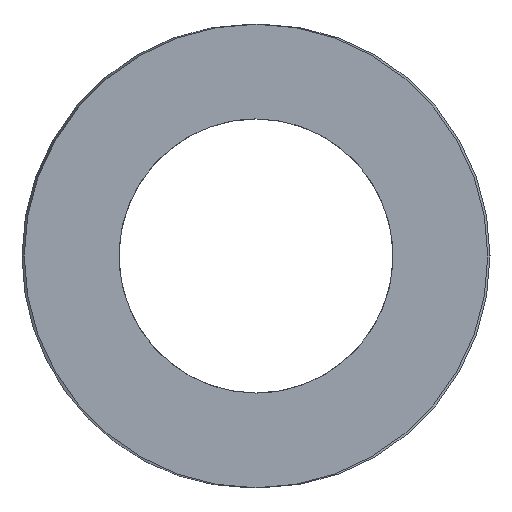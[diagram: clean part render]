
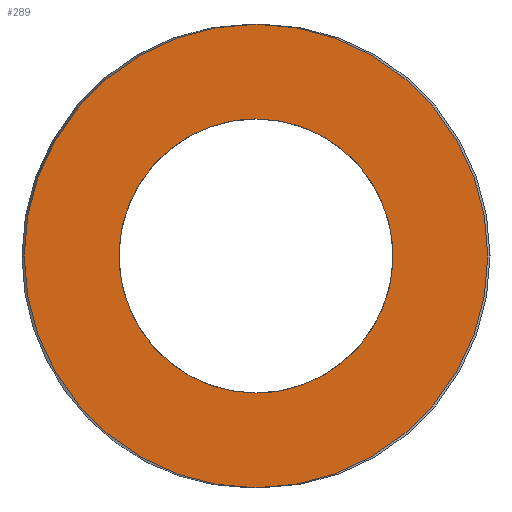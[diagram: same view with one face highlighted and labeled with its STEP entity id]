
A CAD part, left-side view. The second image highlights one B-rep face of the part: STEP entity #289.
In plain terms, the highlighted planar face has unit normal (-1, 0, 0).
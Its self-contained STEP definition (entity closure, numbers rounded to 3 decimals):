
#63=CARTESIAN_POINT('Vertex',(0.,4.65,0.)) ;
#77=CARTESIAN_POINT('Vertex',(0.,-4.65,0.)) ;
#80=CARTESIAN_POINT('Axis2P3D Location',(0.,0.,0.)) ;
#97=CARTESIAN_POINT('Axis2P3D Location',(0.,0.,0.)) ;
#226=CARTESIAN_POINT('Axis2P3D Location',(0.,2.325,0.)) ;
#236=CARTESIAN_POINT('Control Point',(0.,0.,-2.75)) ;
#237=CARTESIAN_POINT('Control Point',(0.,0.325,-2.75)) ;
#238=CARTESIAN_POINT('Control Point',(0.,0.65,-2.702)) ;
#239=CARTESIAN_POINT('Control Point',(0.,0.965,-2.606)) ;
#240=CARTESIAN_POINT('Control Point',(0.,1.559,-2.324)) ;
#241=CARTESIAN_POINT('Control Point',(0.,2.045,-1.882)) ;
#242=CARTESIAN_POINT('Control Point',(0.,2.253,-1.626)) ;
#243=CARTESIAN_POINT('Control Point',(0.,2.589,-1.061)) ;
#244=CARTESIAN_POINT('Control Point',(0.,2.747,-0.424)) ;
#245=CARTESIAN_POINT('Control Point',(0.,2.777,-0.095)) ;
#246=CARTESIAN_POINT('Control Point',(0.,2.741,0.561)) ;
#247=CARTESIAN_POINT('Control Point',(0.,2.517,1.178)) ;
#248=CARTESIAN_POINT('Control Point',(0.,2.36,1.468)) ;
#249=CARTESIAN_POINT('Control Point',(0.,1.964,1.993)) ;
#250=CARTESIAN_POINT('Control Point',(0.,1.434,2.38)) ;
#251=CARTESIAN_POINT('Control Point',(0.,1.142,2.534)) ;
#252=CARTESIAN_POINT('Control Point',(0.,0.733,2.675)) ;
#253=CARTESIAN_POINT('Control Point',(0.,0.309,2.735)) ;
#254=CARTESIAN_POINT('Control Point',(0.,0.206,2.745)) ;
#255=CARTESIAN_POINT('Control Point',(0.,0.103,2.75)) ;
#256=CARTESIAN_POINT('Control Point',(0.,0.,2.75)) ;
#257=CARTESIAN_POINT('Vertex',(0.,0.,-2.75)) ;
#259=CARTESIAN_POINT('Vertex',(0.,0.,2.75)) ;
#263=CARTESIAN_POINT('Control Point',(0.,0.,2.75)) ;
#264=CARTESIAN_POINT('Control Point',(0.,-0.325,2.75)) ;
#265=CARTESIAN_POINT('Control Point',(0.,-0.65,2.702)) ;
#266=CARTESIAN_POINT('Control Point',(0.,-0.965,2.606)) ;
#267=CARTESIAN_POINT('Control Point',(0.,-1.559,2.324)) ;
#268=CARTESIAN_POINT('Control Point',(0.,-2.045,1.882)) ;
#269=CARTESIAN_POINT('Control Point',(0.,-2.253,1.626)) ;
#270=CARTESIAN_POINT('Control Point',(0.,-2.589,1.061)) ;
#271=CARTESIAN_POINT('Control Point',(0.,-2.747,0.424)) ;
#272=CARTESIAN_POINT('Control Point',(0.,-2.777,0.095)) ;
#273=CARTESIAN_POINT('Control Point',(0.,-2.741,-0.561)) ;
#274=CARTESIAN_POINT('Control Point',(0.,-2.517,-1.178)) ;
#275=CARTESIAN_POINT('Control Point',(0.,-2.36,-1.468)) ;
#276=CARTESIAN_POINT('Control Point',(0.,-1.964,-1.993)) ;
#277=CARTESIAN_POINT('Control Point',(0.,-1.434,-2.38)) ;
#278=CARTESIAN_POINT('Control Point',(0.,-1.142,-2.534)) ;
#279=CARTESIAN_POINT('Control Point',(0.,-0.733,-2.675)) ;
#280=CARTESIAN_POINT('Control Point',(0.,-0.309,-2.735)) ;
#281=CARTESIAN_POINT('Control Point',(0.,-0.206,-2.745)) ;
#282=CARTESIAN_POINT('Control Point',(0.,-0.103,-2.75)) ;
#283=CARTESIAN_POINT('Control Point',(0.,0.,-2.75)) ;
#81=DIRECTION('Axis2P3D Direction',(1.,-0.,0.)) ;
#98=DIRECTION('Axis2P3D Direction',(1.,-0.,0.)) ;
#227=DIRECTION('Axis2P3D Direction',(-1.,0.,0.)) ;
#228=DIRECTION('Axis2P3D XDirection',(0.,1.,0.)) ;
#82=AXIS2_PLACEMENT_3D('Circle Axis2P3D',#80,#81,$) ;
#99=AXIS2_PLACEMENT_3D('Circle Axis2P3D',#97,#98,$) ;
#229=AXIS2_PLACEMENT_3D('Plane Axis2P3D',#226,#227,#228) ;
#232=ORIENTED_EDGE('',*,*,#84,.T.) ;
#233=ORIENTED_EDGE('',*,*,#101,.T.) ;
#286=ORIENTED_EDGE('',*,*,#261,.T.) ;
#287=ORIENTED_EDGE('',*,*,#284,.T.) ;
#288=FACE_BOUND('',#285,.T.) ;
#289=ADVANCED_FACE('392-B10-025',(#234,#288),#230,.T.) ;
#235=B_SPLINE_CURVE_WITH_KNOTS('',5,(#236,#237,#238,#239,#240,#241,#242,#243,#244,#245,#246,#247,#248,#249,#250,#251,#252,#253,#254,#255,#256),.UNSPECIFIED.,.F.,.U.,(6,3,3,3,3,3,6),(0.,2.298,4.596,6.893,9.191,11.489,12.217),.UNSPECIFIED.) ;
#262=B_SPLINE_CURVE_WITH_KNOTS('',5,(#263,#264,#265,#266,#267,#268,#269,#270,#271,#272,#273,#274,#275,#276,#277,#278,#279,#280,#281,#282,#283),.UNSPECIFIED.,.F.,.U.,(6,3,3,3,3,3,6),(0.,2.298,4.596,6.893,9.191,11.489,12.217),.UNSPECIFIED.) ;
#83=CIRCLE('generated circle',#82,4.65) ;
#100=CIRCLE('generated circle',#99,4.65) ;
#84=EDGE_CURVE('',#64,#78,#83,.F.) ;
#101=EDGE_CURVE('',#78,#64,#100,.F.) ;
#261=EDGE_CURVE('',#258,#260,#235,.T.) ;
#284=EDGE_CURVE('',#260,#258,#262,.T.) ;
#231=EDGE_LOOP('',(#232,#233)) ;
#285=EDGE_LOOP('',(#286,#287)) ;
#234=FACE_OUTER_BOUND('',#231,.T.) ;
#230=PLANE('Plane',#229) ;
#64=VERTEX_POINT('',#63) ;
#78=VERTEX_POINT('',#77) ;
#258=VERTEX_POINT('',#257) ;
#260=VERTEX_POINT('',#259) ;
